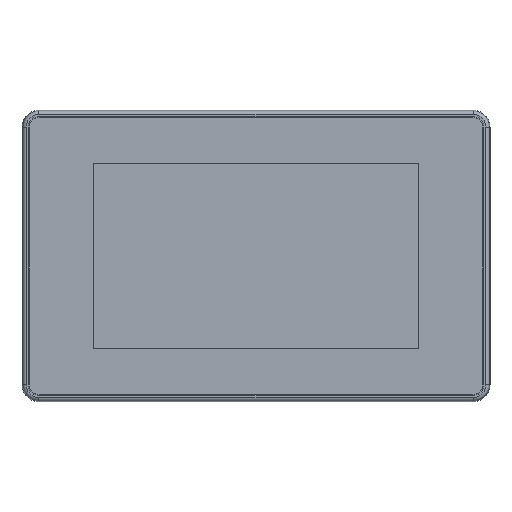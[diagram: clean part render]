
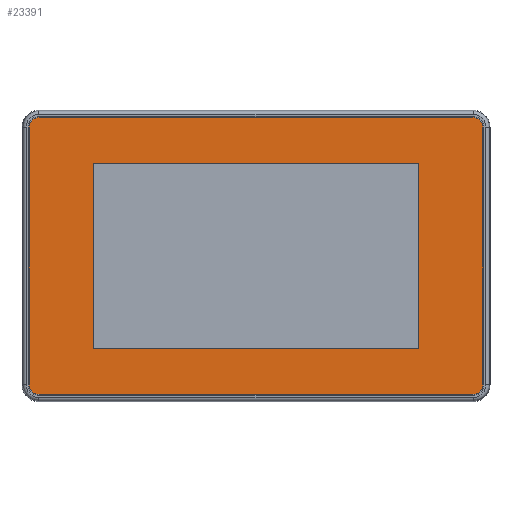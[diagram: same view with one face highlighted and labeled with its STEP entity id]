
A CAD part, top view. The second image highlights one B-rep face of the part: STEP entity #23391.
In plain terms, the highlighted planar face has unit normal (0, 0, 1).
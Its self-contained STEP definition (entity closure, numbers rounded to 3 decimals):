
#23151=CARTESIAN_POINT('',(63.857,40.857,5.88));
#23152=VERTEX_POINT('',#23151);
#23159=CARTESIAN_POINT('',(66.857,37.857,5.88));
#23160=VERTEX_POINT('',#23159);
#23161=CARTESIAN_POINT('',(63.857,37.857,5.88));
#23162=DIRECTION('',(0.,0.,-1.));
#23163=DIRECTION('',(-1.,0.,0.));
#23164=AXIS2_PLACEMENT_3D('',#23161,#23162,#23163);
#23165=CIRCLE('',#23164,3.);
#23166=EDGE_CURVE('',#23152,#23160,#23165,.T.);
#23184=CARTESIAN_POINT('',(66.857,-37.857,5.88));
#23185=VERTEX_POINT('',#23184);
#23186=CARTESIAN_POINT('',(66.857,-37.857,5.88));
#23187=DIRECTION('',(0.,1.,0.));
#23188=VECTOR('',#23187,75.715);
#23189=LINE('',#23186,#23188);
#23190=EDGE_CURVE('',#23185,#23160,#23189,.T.);
#23208=CARTESIAN_POINT('',(63.857,-40.857,5.88));
#23209=VERTEX_POINT('',#23208);
#23210=CARTESIAN_POINT('',(63.857,-37.857,5.88));
#23211=DIRECTION('',(0.,0.,-1.));
#23212=DIRECTION('',(-1.,0.,0.));
#23213=AXIS2_PLACEMENT_3D('',#23210,#23211,#23212);
#23214=CIRCLE('',#23213,3.);
#23215=EDGE_CURVE('',#23185,#23209,#23214,.T.);
#23233=CARTESIAN_POINT('',(-63.857,-40.857,5.88));
#23234=VERTEX_POINT('',#23233);
#23235=CARTESIAN_POINT('',(-63.857,-40.857,5.88));
#23236=DIRECTION('',(1.,0.,-0.));
#23237=VECTOR('',#23236,127.715);
#23238=LINE('',#23235,#23237);
#23239=EDGE_CURVE('',#23234,#23209,#23238,.T.);
#23257=CARTESIAN_POINT('',(-66.857,-37.857,5.88));
#23258=VERTEX_POINT('',#23257);
#23259=CARTESIAN_POINT('',(-63.857,-37.857,5.88));
#23260=DIRECTION('',(0.,0.,-1.));
#23261=DIRECTION('',(-1.,0.,0.));
#23262=AXIS2_PLACEMENT_3D('',#23259,#23260,#23261);
#23263=CIRCLE('',#23262,3.);
#23264=EDGE_CURVE('',#23234,#23258,#23263,.T.);
#23282=CARTESIAN_POINT('',(-66.857,37.857,5.88));
#23283=VERTEX_POINT('',#23282);
#23284=CARTESIAN_POINT('',(-66.857,-37.857,5.88));
#23285=DIRECTION('',(-0.,1.,-0.));
#23286=VECTOR('',#23285,75.715);
#23287=LINE('',#23284,#23286);
#23288=EDGE_CURVE('',#23258,#23283,#23287,.T.);
#23306=CARTESIAN_POINT('',(-63.857,40.857,5.88));
#23307=VERTEX_POINT('',#23306);
#23308=CARTESIAN_POINT('',(-63.857,37.857,5.88));
#23309=DIRECTION('',(0.,0.,-1.));
#23310=DIRECTION('',(-1.,0.,0.));
#23311=AXIS2_PLACEMENT_3D('',#23308,#23309,#23310);
#23312=CIRCLE('',#23311,3.);
#23313=EDGE_CURVE('',#23283,#23307,#23312,.T.);
#23331=CARTESIAN_POINT('',(63.857,40.857,5.88));
#23332=DIRECTION('',(-1.,-0.,0.));
#23333=VECTOR('',#23332,127.715);
#23334=LINE('',#23331,#23333);
#23335=EDGE_CURVE('',#23152,#23307,#23334,.T.);
#23342=CARTESIAN_POINT('',(0.,0.,5.88));
#23343=DIRECTION('',(0.,0.,1.));
#23344=DIRECTION('',(1.,0.,0.));
#23345=AXIS2_PLACEMENT_3D('',#23342,#23343,#23344);
#23346=PLANE('',#23345);
#23347=ORIENTED_EDGE('',*,*,#23335,.T.);
#23348=ORIENTED_EDGE('',*,*,#23313,.F.);
#23349=ORIENTED_EDGE('',*,*,#23288,.F.);
#23350=ORIENTED_EDGE('',*,*,#23264,.F.);
#23351=ORIENTED_EDGE('',*,*,#23239,.T.);
#23352=ORIENTED_EDGE('',*,*,#23215,.F.);
#23353=ORIENTED_EDGE('',*,*,#23190,.T.);
#23354=ORIENTED_EDGE('',*,*,#23166,.F.);
#23355=EDGE_LOOP('',(#23347,#23348,#23349,#23350,#23351,#23352,#23353,#23354));
#23356=FACE_BOUND('',#23355,.T.);
#23357=CARTESIAN_POINT('',(47.77,27.18,5.88));
#23358=VERTEX_POINT('',#23357);
#23359=CARTESIAN_POINT('',(-47.77,27.18,5.88));
#23360=VERTEX_POINT('',#23359);
#23361=CARTESIAN_POINT('',(47.77,27.18,5.88));
#23362=DIRECTION('',(-1.,0.,0.));
#23363=VECTOR('',#23362,95.54);
#23364=LINE('',#23361,#23363);
#23365=EDGE_CURVE('',#23358,#23360,#23364,.T.);
#23366=ORIENTED_EDGE('',*,*,#23365,.F.);
#23367=CARTESIAN_POINT('',(47.77,-27.18,5.88));
#23368=VERTEX_POINT('',#23367);
#23369=CARTESIAN_POINT('',(47.77,-27.18,5.88));
#23370=DIRECTION('',(0.,1.,0.));
#23371=VECTOR('',#23370,54.36);
#23372=LINE('',#23369,#23371);
#23373=EDGE_CURVE('',#23368,#23358,#23372,.T.);
#23374=ORIENTED_EDGE('',*,*,#23373,.F.);
#23375=CARTESIAN_POINT('',(-47.77,-27.18,5.88));
#23376=VERTEX_POINT('',#23375);
#23377=CARTESIAN_POINT('',(-47.77,-27.18,5.88));
#23378=DIRECTION('',(1.,0.,-0.));
#23379=VECTOR('',#23378,95.54);
#23380=LINE('',#23377,#23379);
#23381=EDGE_CURVE('',#23376,#23368,#23380,.T.);
#23382=ORIENTED_EDGE('',*,*,#23381,.F.);
#23383=CARTESIAN_POINT('',(-47.77,27.18,5.88));
#23384=DIRECTION('',(0.,-1.,0.));
#23385=VECTOR('',#23384,54.36);
#23386=LINE('',#23383,#23385);
#23387=EDGE_CURVE('',#23360,#23376,#23386,.T.);
#23388=ORIENTED_EDGE('',*,*,#23387,.F.);
#23389=EDGE_LOOP('',(#23366,#23374,#23382,#23388));
#23390=FACE_BOUND('',#23389,.T.);
#23391=ADVANCED_FACE('',(#23356,#23390),#23346,.T.);
